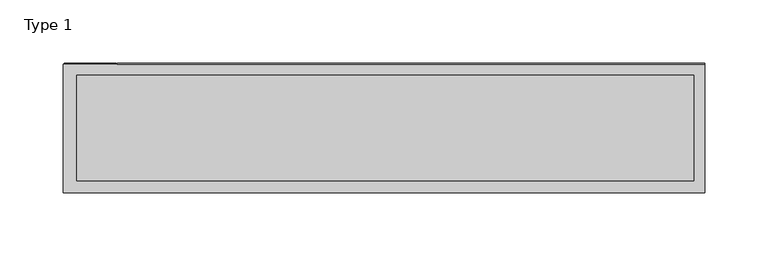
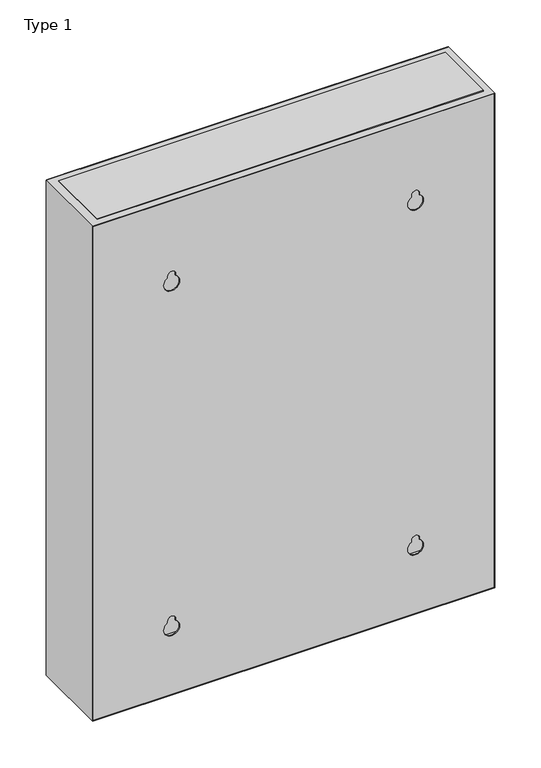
"""IFC4 building model written with IfcOpenShell, lengths in millimetres: proxy geometry, PDB-200 - 208V_OR_120V_Distribution_Panel_Wallmount_BIM_Model : Type 1."""

from ifc_helpers import new_model, si_unit, point, frame, frame_2d, origin, place, context, project, spatial, polyline, circle_curve, trimmed, segment, composite_curve, outline, extrude, source, transform, mapped, element, save


def type_1_0d3d00d8(model_context):
    return source(origin(), model_context, "Body", "SweptSolid", [
        extrude(outline(polyline([(1661.8105, -253.0524604), (1003.7201708, -253.0524604), (1003.7201708, 252.9513543), (1661.8105, 252.9513543), (1661.8105, -253.0524604)]), holes=[composite_curve([segment(trimmed(circle_curve(frame_2d((1562.5846885, 154.0)), 5.0), [point((1562.5846885, 149.0))], [point((1562.5846885, 159.0))], True, "CARTESIAN"), True, "CONTINUOUS"), segment(polyline([(1562.5846885, 159.0), (1560.4927236, 159.0)]), True, "CONTINUOUS"), segment(trimmed(circle_curve(frame_2d((1551.8324696, 154.0)), 10.0), [point((1560.4927236, 159.0))], [point((1560.4927236, 149.0))], True, "CARTESIAN"), True, "CONTINUOUS"), segment(polyline([(1560.4927236, 149.0), (1562.5846885, 149.0)]), True, "CONTINUOUS")], self_intersect=False), composite_curve([segment(trimmed(circle_curve(frame_2d((1562.5846885, -154.0)), 5.0), [point((1562.5846885, -159.0))], [point((1562.5846885, -149.0))], True, "CARTESIAN"), True, "CONTINUOUS"), segment(polyline([(1562.5846885, -149.0), (1560.4927236, -149.0)]), True, "CONTINUOUS"), segment(trimmed(circle_curve(frame_2d((1551.8324696, -154.0)), 10.0), [point((1560.4927236, -149.0))], [point((1560.4927236, -159.0))], True, "CARTESIAN"), True, "CONTINUOUS"), segment(polyline([(1560.4927236, -159.0), (1562.5846885, -159.0)]), True, "CONTINUOUS")], self_intersect=False), composite_curve([segment(trimmed(circle_curve(frame_2d((1102.5846885, 154.0)), 5.0), [point((1102.5846885, 149.0))], [point((1102.5846885, 159.0))], True, "CARTESIAN"), True, "CONTINUOUS"), segment(polyline([(1102.5846885, 159.0), (1100.4927236, 159.0)]), True, "CONTINUOUS"), segment(trimmed(circle_curve(frame_2d((1091.8324696, 154.0)), 10.0), [point((1100.4927236, 159.0))], [point((1100.4927236, 149.0))], True, "CARTESIAN"), True, "CONTINUOUS"), segment(polyline([(1100.4927236, 149.0), (1102.5846885, 149.0)]), True, "CONTINUOUS")], self_intersect=False), composite_curve([segment(trimmed(circle_curve(frame_2d((1102.5846885, -154.0)), 5.0), [point((1102.5846885, -159.0))], [point((1102.5846885, -149.0))], True, "CARTESIAN"), True, "CONTINUOUS"), segment(polyline([(1102.5846885, -149.0), (1100.4927236, -149.0)]), True, "CONTINUOUS"), segment(trimmed(circle_curve(frame_2d((1091.8324696, -154.0)), 10.0), [point((1100.4927236, -149.0))], [point((1100.4927236, -159.0))], True, "CARTESIAN"), True, "CONTINUOUS"), segment(polyline([(1100.4927236, -159.0), (1102.5846885, -159.0)]), True, "CONTINUOUS")], self_intersect=False)]), frame((0.0, 282.5002247, 0.0), z_axis=(0.0, 1.0, 0.0), x_axis=(0.0, 0.0, 1.0)), (0.0, 0.0, 1.0), 0.9625754),
        extrude(outline(polyline([(245.0524604, 375.3817659), (245.0524604, 291.6854258), (-243.0524604, 291.6854258), (-243.0524604, 375.3817659), (245.0524604, 375.3817659)])), frame((0.0, 0.0, 1662.5846885), z_axis=(0.0, 0.0, 1.0), x_axis=(1.0, 0.0, 0.0)), (0.0, 0.0, 1.0), 1.0190412),
        extrude(outline(polyline([(245.0524604, 375.3817659), (245.0524604, 291.6854258), (-243.0524604, 291.6854258), (-243.0524604, 375.3817659), (245.0524604, 375.3817659)])), frame((0.0, 0.0, 1001.2301619), z_axis=(0.0, 0.0, 1.0), x_axis=(1.0, 0.0, 0.0)), (0.0, 0.0, 1.0), 1.3545267),
        extrude(outline(polyline([(1662.5846885, -211.0613968), (1002.5846885, -211.0613968), (1002.5846885, 254.0), (1662.5846885, 254.0), (1662.5846885, -211.0613968)]), holes=[polyline([(1580.351105, -164.6519981), (1580.351105, 175.3480019), (1090.6943454, 175.3480019), (1090.6943454, -164.6519981), (1580.351105, -164.6519981)])]), frame((0.0, 384.0, 0.0), z_axis=(0.0, 1.0, 0.0), x_axis=(0.0, 0.0, 1.0)), (0.0, 0.0, 1.0), 0.9317574),
        extrude(outline(polyline([(174.8480019, 384.0), (-164.1519981, 384.0), (-164.1519981, 384.9317574), (174.8480019, 384.9317574), (174.8480019, 384.0)])), frame((0.0, 0.0, 1091.1943454), z_axis=(0.0, 0.0, 1.0), x_axis=(1.0, 0.0, 0.0)), (0.0, 0.0, 1.0), 488.6567596),
        extrude(outline(polyline([(1662.5846885, -254.0), (1002.5846885, -254.0), (1002.5846885, 254.0), (1662.5846885, 254.0), (1662.5846885, -254.0)]), holes=[polyline([(1661.8105, -253.0524604), (1661.8105, 252.9513543), (1003.7201708, 252.9513543), (1003.7201708, -253.0524604), (1661.8105, -253.0524604)])]), frame((0.0, 282.5002247, 0.0), z_axis=(0.0, 1.0, 0.0), x_axis=(0.0, 0.0, 1.0)), (0.0, 0.0, 1.0), 101.4997753),
        extrude(outline(polyline([(-212.0524604, 384.0), (-253.0524604, 384.0), (-253.0524604, 384.9317574), (-212.0524604, 384.9317574), (-212.0524604, 384.0)])), frame((0.0, 0.0, 1002.5846885), z_axis=(0.0, 0.0, 1.0), x_axis=(1.0, 0.0, 0.0)), (0.0, 0.0, 1.0), 660.0),
        extrude(outline(composite_curve([segment(trimmed(circle_curve(frame_2d((1355.1281656, 96.948195)), 10.0), [point((1355.1281656, 86.948195))], [point((1355.1281656, 106.948195))], False, "CARTESIAN"), True, "CONTINUOUS"), segment(trimmed(circle_curve(frame_2d((1355.1281656, 96.948195)), 10.0), [point((1355.1281656, 106.948195))], [point((1355.1281656, 86.948195))], False, "CARTESIAN"), True, "CONTINUOUS")], self_intersect=False), holes=[polyline([(1362.2099321, 95.0187584), (1362.2099321, 98.8038249), (1347.2099321, 98.8038249), (1347.2099321, 95.0187584), (1362.2099321, 95.0187584)])]), frame((0.0, 356.4874733, 0.0), z_axis=(0.0, 1.0, 0.0), x_axis=(0.0, 0.0, 1.0)), (0.0, 0.0, 1.0), 3.0401587),
        extrude(outline(polyline([(107.9231784, 384.9317574), (107.9231784, 356.4874733), (85.9231784, 356.4874733), (85.9231784, 384.9317574), (107.9231784, 384.9317574)])), frame((0.0, 0.0, 1290.0770102), z_axis=(0.0, 0.0, 1.0), x_axis=(1.0, 0.0, 0.0)), (0.0, 0.0, 1.0), 84.5076783),
    ])


if __name__ == "__main__":
    model = new_model("IFC4")
    model_context = context("Model", 3, world=origin())
    ifc_project = project(units=[si_unit("LENGTHUNIT", "METRE", prefix="MILLI")], contexts=[model_context])
    site = spatial("IfcSite", under=ifc_project)
    building = spatial("IfcBuilding", under=site)
    placement = place(None, origin())
    type_1_shape = type_1_0d3d00d8(model_context)
    element("IfcBuildingElementProxy", 1, Name="PDB-200 - 208V_OR_120V_Distribution_Panel_Wallmount_BIM_Model : Type 1", ObjectType="PDB-200 - 208V_OR_120V_Distribution_Panel_Wallmount_BIM_Model : Type 1", at=placement, inside=building, context=model_context, shape_type="MappedRepresentation", body=[
        mapped(type_1_shape, transform((0.0, 0.0, 0.0), x_axis=(1.0, 0.0, 0.0), y_axis=(0.0, 1.0, 0.0), z_axis=(0.0, 0.0, 1.0))),
    ])
    save(model, "model.ifc")
